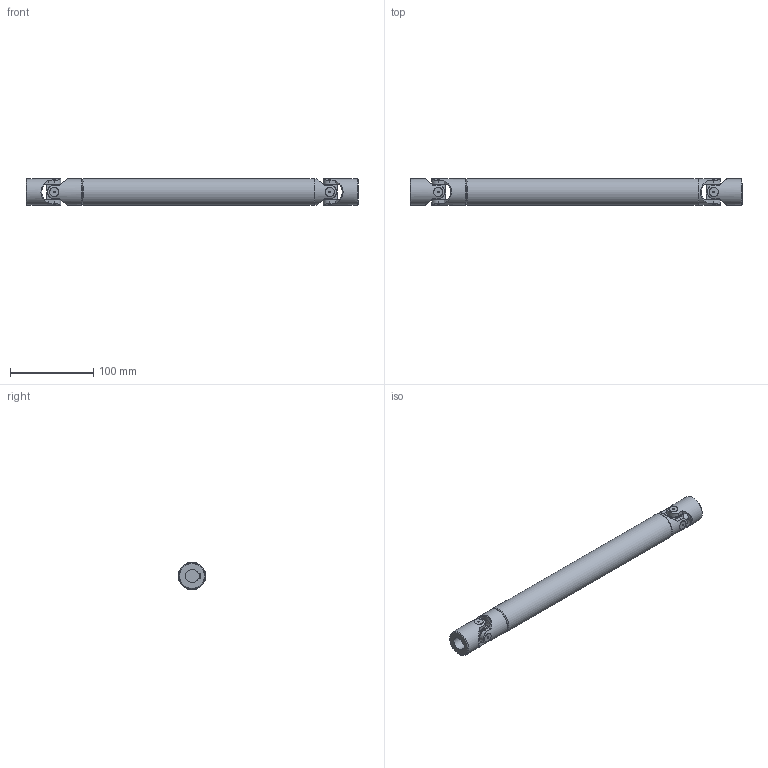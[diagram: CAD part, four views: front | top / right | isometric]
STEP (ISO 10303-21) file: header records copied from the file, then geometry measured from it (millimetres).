
FILE_DESCRIPTION(/* description */ (''),/* implementation_level */ '2;1');
FILE_NAME(/* name */ '\\SRV2016\Societa\Stefano\Disegni 3D\00Catalogo 3D\03Trasmissioni standard GA\1GA35\1GA35_SG0A1635.stp',/* time_stamp */ '2022-02-16T16:27:21+01:00',/* author */ ('acquisti'),/* organization */ (''),/* preprocessor_version */ 'ST-DEVELOPER v15.6',/* originating_system */ 'Autodesk Inventor 2015',/* authorisation */ '');
FILE_SCHEMA (('AUTOMOTIVE_DESIGN { 1 0 10303 214 3 1 1 }'));
Length unit declared in the file: millimetre
Products named in the file (5): 1GA35 LAI; 1GA35 LCI; 1G MOC; 1G SFE; 1GA35_SG0A1635
Assembly tree (6 placements, depth 2):
  1GA35_SG0A1635
    1GA35 LAI
    1GA35 LCI
    1G MOC  x2
    1G SFE  x2
Bounding box: 400 x 32.5 x 32.5 mm (x, y, z)
Volume: 224522.2 mm3; surface area: 96558.2 mm2
Topology: 6 solids, 6 shells, 228 faces, 551 edges, 359 vertices
Faces by surface type: plane 106, cylinder 93, cone 25, torus 4
Full cylindrical faces by diameter (mm): 2 x8, 15.5 x8, 16 x1, 18 x2, 27 x1, 32 x4, 32.5 x1
Entity records: 5689 total; most frequent: CARTESIAN_POINT 1639, DIRECTION 823, ORIENTED_EDGE 796, EDGE_CURVE 398, AXIS2_PLACEMENT_3D 335, VERTEX_POINT 274, EDGE_LOOP 224, FACE_OUTER_BOUND 176
